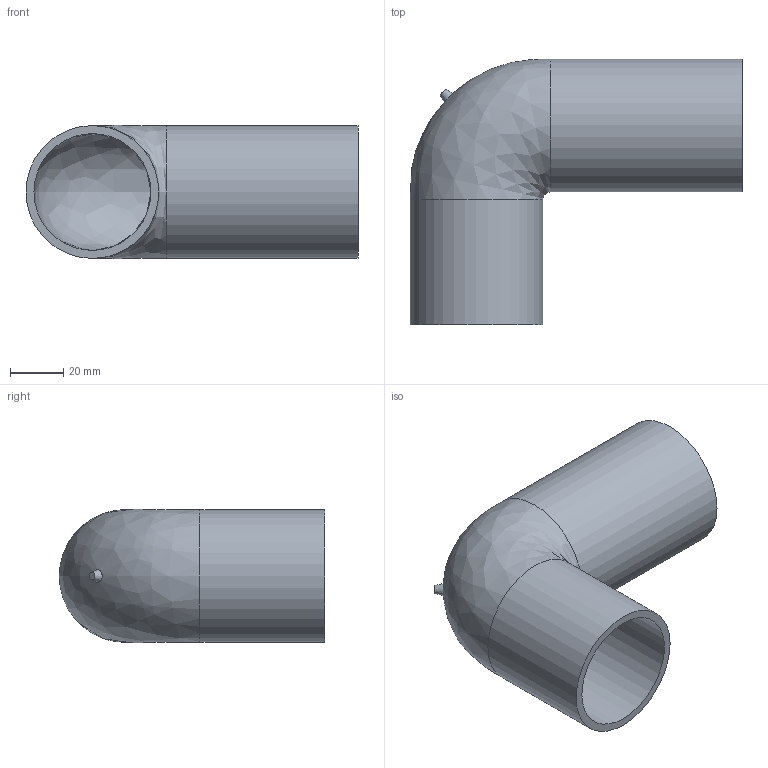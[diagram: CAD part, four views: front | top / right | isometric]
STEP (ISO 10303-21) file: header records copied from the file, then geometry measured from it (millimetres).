
FILE_DESCRIPTION(/* description */ (''),/* implementation_level */ '2;1');
FILE_NAME(/* name */ 'Z:\Geberit\Export\NewStep\361080.stp',/* time_stamp */ '2014-04-01T21:02:56+02:00',/* author */ ('nelson'),/* organization */ (''),/* preprocessor_version */ 'ST-DEVELOPER v15.2',/* originating_system */ 'Autodesk Inventor 2014',/* authorisation */ '');
FILE_SCHEMA (('AUTOMOTIVE_DESIGN { 1 0 10303 214 3 1 1 }'));
Length unit declared in the file: millimetre
Products named in the file (1): 361080
Bounding box: 125 x 100 x 50.26 mm (x, y, z)
Volume: 72863.9 mm3; surface area: 49466.6 mm2
Topology: 1 solids, 1 shells, 10 faces, 20 edges, 12 vertices
Faces by surface type: cylinder 4, plane 3, bspline 2, cone 1
Full cylindrical faces by diameter (mm): 44 x2, 50 x2
Entity records: 1016 total; most frequent: CARTESIAN_POINT 816, DIRECTION 36, ORIENTED_EDGE 28, AXIS2_PLACEMENT_3D 18, EDGE_LOOP 17, EDGE_CURVE 14, VERTEX_POINT 11, ADVANCED_FACE 10
